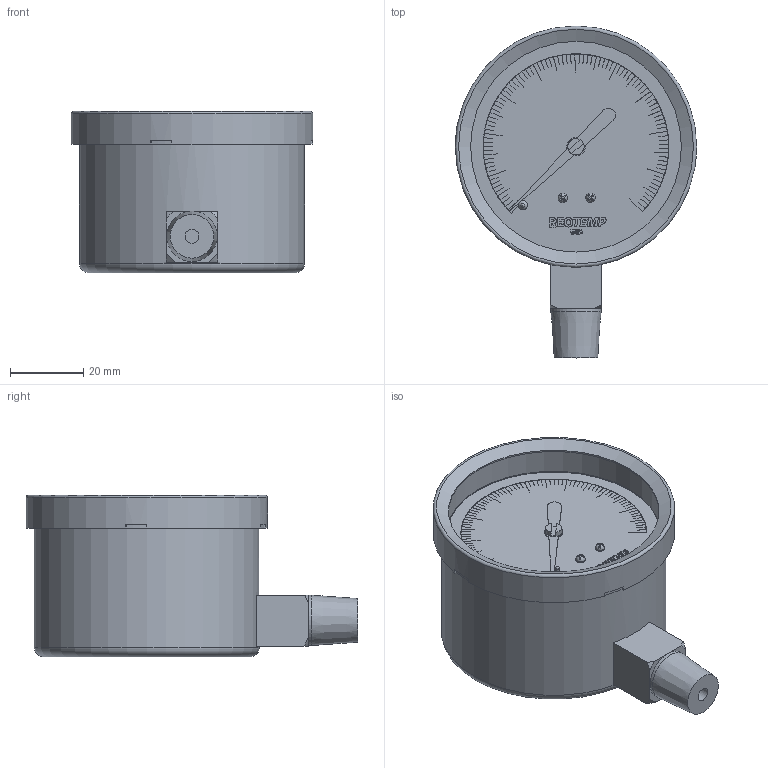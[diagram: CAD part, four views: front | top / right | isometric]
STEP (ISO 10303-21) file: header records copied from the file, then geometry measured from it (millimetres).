
FILE_DESCRIPTION(/* description */ (''),/* implementation_level */ '2;1');
FILE_NAME(/* name */ 'PC25S2A4.stp',/* time_stamp */ '2024-01-26T16:37:00-06:00',/* author */ ('engineer'),/* organization */ (''),/* preprocessor_version */ 'ST-DEVELOPER v20',/* originating_system */ 'Autodesk Inventor 2024',/* authorisation */ '');
FILE_SCHEMA (('AUTOMOTIVE_DESIGN { 1 0 10303 214 3 1 1 }'));
Length unit declared in the file: inch
Products named in the file (9): PC25 Assy; PR25 BLACK DIAL; PR25 BLACK NEEDLE; PC25 Dial 3; PR25 NEEDLE SCREW; PC25 Case copper; 10001 dial pointer stop; PC25 Bezel - Real; DIAL SCREW
Assembly tree (9 placements, depth 2):
  PC25 Assy
    PR25 BLACK DIAL
    PR25 BLACK NEEDLE
    PC25 Dial 3
    PR25 NEEDLE SCREW
    PC25 Case copper
    10001 dial pointer stop
    PC25 Bezel - Real
    DIAL SCREW  x2
Bounding box: 66.04 x 90.76 x 44.13 mm (x, y, z)
Volume: 23070 mm3; surface area: 39049.5 mm2
Topology: 13 solids, 13 shells, 694 faces, 1834 edges, 1220 vertices
Faces by surface type: plane 584, cylinder 82, bspline 11, cone 8, torus 6, sphere 3
Full cylindrical faces by diameter (mm): 1.016 x3, 2.54 x3, 3.81 x1, 4.064 x1, 4.445 x1, 13.762 x1, 57.658 x1, 58.42 x2, 59.167 x1, 61.595 x1, 63.711 x1, 66.04 x1
Entity records: 21507 total; most frequent: CARTESIAN_POINT 4072, ORIENTED_EDGE 3588, DIRECTION 3353, EDGE_CURVE 1794, LINE 1547, VECTOR 1547, VERTEX_POINT 1194, AXIS2_PLACEMENT_3D 903
